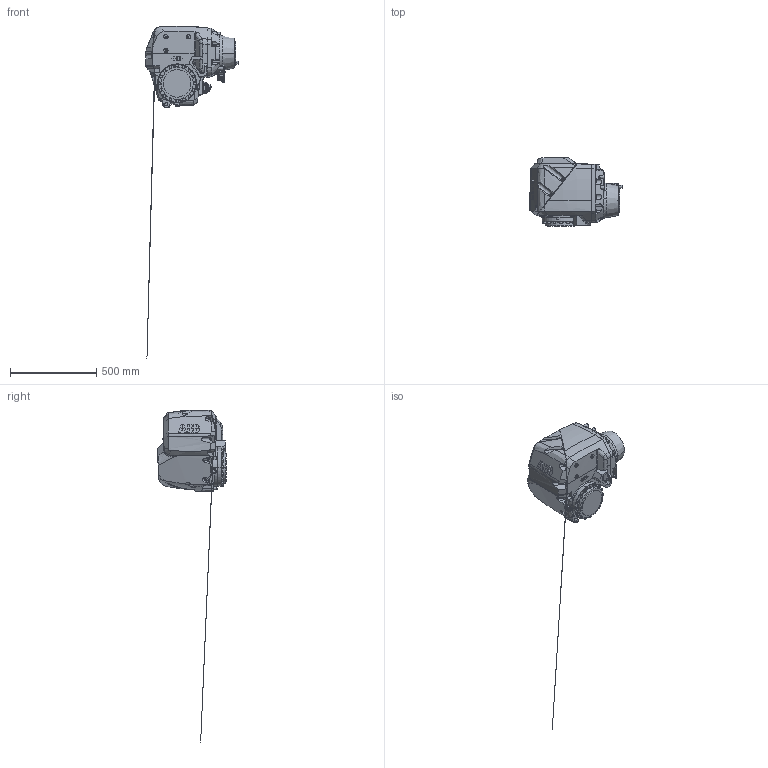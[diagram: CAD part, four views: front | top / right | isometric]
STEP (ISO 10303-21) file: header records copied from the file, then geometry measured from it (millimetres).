
FILE_DESCRIPTION (( 'STEP AP214' ), '1' );
FILE_NAME ('IRB4600_20kg-250_LINK3_CAD_rev04.STEP', '2016-12-06T10:23:41', ( 'ABB' ), ( 'ABB' ), 'SwSTEP 2.0', 'SolidWorks 2014', '' );
FILE_SCHEMA (( 'AUTOMOTIVE_DESIGN' ));
Length unit declared in the file: millimetre
Products named in the file (1): IRB4600_20kg-250_LINK3_CAD_rev04
Bounding box: 533.59 x 398.61 x 1921.97 mm (x, y, z)
Volume: 51158493.6 mm3; surface area: 1002881.2 mm2
Topology: 2 solids, 2 shells, 1073 faces, 2766 edges, 1758 vertices
Faces by surface type: plane 490, cylinder 264, cone 135, bspline 123, torus 54, sphere 7
Entity records: 48348 total; most frequent: CARTESIAN_POINT 22308, ORIENTED_EDGE 5458, DIRECTION 4793, EDGE_CURVE 2729, AXIS2_PLACEMENT_3D 1793, VERTEX_POINT 1758, VECTOR 1207, LINE 1207
